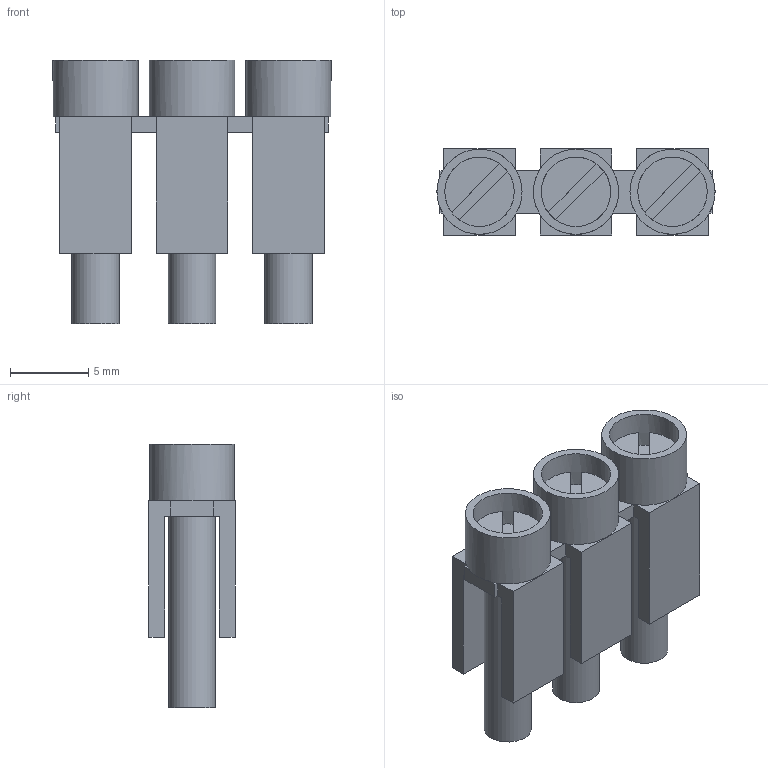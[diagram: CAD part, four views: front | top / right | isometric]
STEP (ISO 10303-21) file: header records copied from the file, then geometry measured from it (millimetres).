
FILE_DESCRIPTION( ('This file contains a STEP AP42 implementation' ,'as created by ZW3D STEP Interface translator.') ,'2;1' );
FILE_NAME( 'FBI 3-6.stp' ,'23 614. 9 552', (''), ('ZWCAD Software Co.'), 'Version 1.0', 'ZW3D to STEP translator', '' );
FILE_SCHEMA(('AUTOMOTIVE_DESIGN { 1 0 10303 214 1 1 1 1 }'));
Length unit declared in the file: millimetre
Products named in the file (2): 0; 0203425
Bounding box: 17.73 x 5.5 x 16.8 mm (x, y, z)
Volume: 729.8 mm3; surface area: 1358.8 mm2
Topology: 1 solids, 1 shells, 97 faces, 248 edges, 159 vertices
Faces by surface type: plane 88, cylinder 9
Full cylindrical faces by diameter (mm): 3 x3, 4.425 x3, 5.425 x3
Entity records: 3051 total; most frequent: DIRECTION 511, CARTESIAN_POINT 505, ORIENTED_EDGE 496, EDGE_CURVE 248, VECTOR 181, LINE 181, AXIS2_PLACEMENT_3D 165, VERTEX_POINT 159
